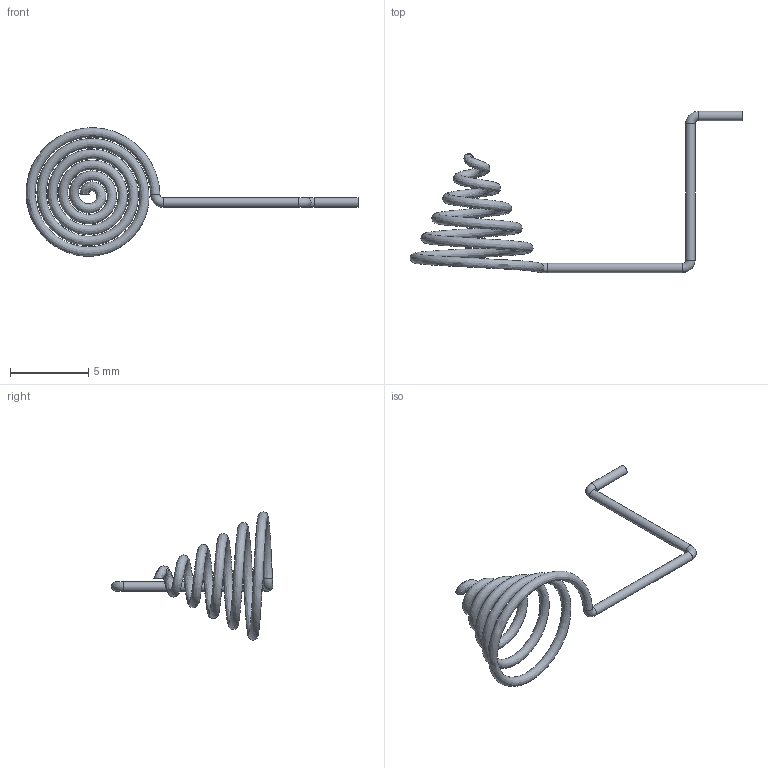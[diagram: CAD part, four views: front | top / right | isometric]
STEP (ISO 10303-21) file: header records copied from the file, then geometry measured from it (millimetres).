
FILE_DESCRIPTION(/* description */ (''),/* implementation_level */ '2;1');
FILE_NAME(/* name */ 'C:/Users/RileyStevenson/RileyS/Git-Repos/hybrid-lora-satellite-gps-tracker/My3DModels/Negative Coil - Simple Version v6.step',/* time_stamp */ '2022-02-24T00:09:30-06:00',/* author */ (''),/* organization */ (''),/* preprocessor_version */ 'ST-DEVELOPER v18.1',/* originating_system */ 'Autodesk Translation Framework v10.13.0.1454',/* authorisation */ '');
FILE_SCHEMA (('AUTOMOTIVE_DESIGN { 1 0 10303 214 3 1 1 }'));
Length unit declared in the file: millimetre
Products named in the file (1): Negative Coil - Simple Version
Bounding box: 21.21 x 10.3 x 8.2 mm (x, y, z)
Volume: 28.3 mm3; surface area: 190.1 mm2
Topology: 1 solids, 1 shells, 9 faces, 20 edges, 13 vertices
Faces by surface type: cylinder 3, torus 3, plane 2, bspline 1
Full cylindrical faces by diameter (mm): 0.6 x3
Entity records: 816 total; most frequent: CARTESIAN_POINT 569, DIRECTION 53, ORIENTED_EDGE 40, AXIS2_PLACEMENT_3D 25, EDGE_CURVE 20, CIRCLE 16, VERTEX_POINT 13, FACE_OUTER_BOUND 9
